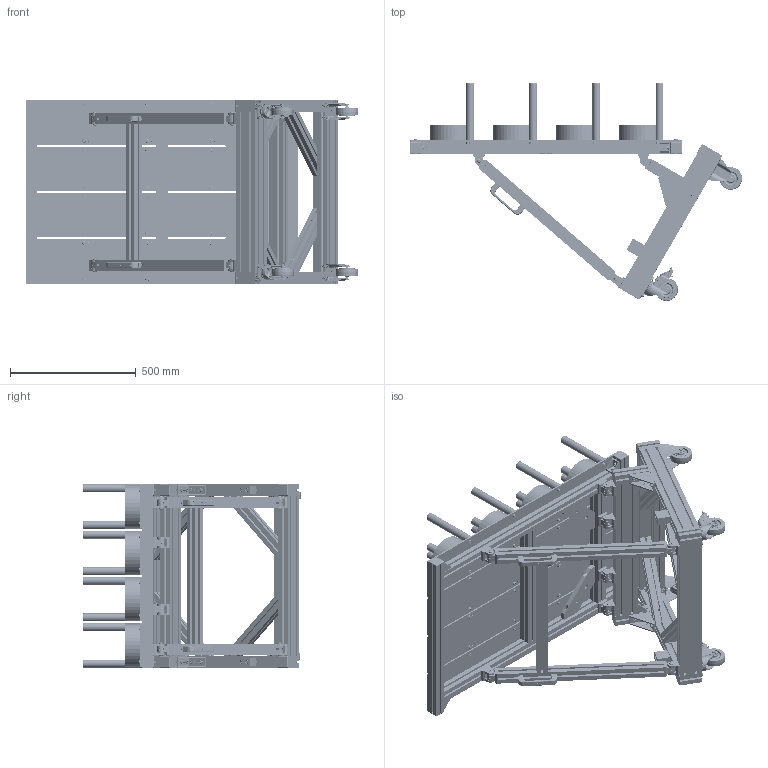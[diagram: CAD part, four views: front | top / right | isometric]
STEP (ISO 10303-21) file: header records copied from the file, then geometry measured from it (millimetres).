
FILE_DESCRIPTION(/* description */ (''),/* implementation_level */ '2;1');
FILE_NAME(/* name */ 'MT091322-1_Cart.stp',/* time_stamp */ '2023-09-14T10:07:32-04:00',/* author */ ('amoles'),/* organization */ (''),/* preprocessor_version */ 'ST-DEVELOPER v19.2',/* originating_system */ 'Autodesk Inventor 2024',/* authorisation */ '');
FILE_SCHEMA (('AUTOMOTIVE_DESIGN { 1 0 10303 214 3 1 1 }'));
Products named in the file (82): MT091322-1_Cart; Support Frame_Top; 20.1033 45X45 F_31; 20.1033 45X45 F_39; Det 100_Assy; MT091322-1_100; 20.1088 HANDLE PROFILE 32_8.875; Default; 21.1204 ; 22.1023_1; 91292A189_TYPE 18-8 SS SOCKET HEAD CAP SCREW; 21.2020 ; 21.2020 _1; 21.2020 _2; 21.2020 _3; DIN 427 - M8 x 16; 21.1784 ; 21.1784 CORNER 180; 21.1210 ; 20.1033 45X45 F_4; 20.1032 45X90 F_30.037; 20.1033 45X45 F_Corner_Vert; 20.1032 45X90 F_20.46; Link_Assy; 21.2030; 21.2030_1; 20.0984 90X90X45_30.037; Link_Assy_1; 20.1033 45X45 F_Link; 21.2030_2; 21.2030_3; 21.2030 LING FLANGED BUSHING; 21.2030 LINK AL BLOCK; 21.2030 LINK ALUMINUM BLOCK INNER; ISO 7380 - M8 x 16; 21.2016; 21.1212 ; 21.1351 ; 21.2530_1 HANDLE 135 GRAY; 21.2530_1 HANDLE 135 GRAY_1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
Assembly tree (298 placements, depth 5):
  MT091322-1_Cart
    Support Frame_Top
      20.1033 45X45 F_31  x2
      20.1033 45X45 F_39  x2
      Det 100_Assy  x4
        MT091322-1_100
        20.1088 HANDLE PROFILE 32_8.875
        Default
        21.1204 
        22.1023_1
        91292A189_TYPE 18-8 SS SOCKET HEAD CAP SCREW
        21.1127 
        21.1280 
      20.1033 45X45 F_23.46  x2
      21.2020 
        21.2030 LINK ALUMINUM BLOCK INNER
        21.2030 LING FLANGED BUSHING  x2
        21.2030 LINK AL BLOCK
        21.2016  x2
        21.1212 
        21.1202
        DIN 427 - M8 x 16  x2
        21.1351   x2
      21.2020 _1
        21.2030 LINK ALUMINUM BLOCK INNER
        21.2030 LING FLANGED BUSHING  x2
        21.2030 LINK AL BLOCK
        21.2016  x2
        21.1212 
        21.1202
        DIN 427 - M8 x 16  x2
        21.1351   x2
      21.1349_7 ANGLE 45 GD-Z  x4
        21.1349 ANGLE 45 GD-Z
        21.1280 
        21.1127 
        21.1351/2
      21.2020 _2
        21.2030 LINK ALUMINUM BLOCK INNER
        21.2030 LING FLANGED BUSHING  x2
        21.2030 LINK AL BLOCK
        21.2016  x2
        21.1212 
        21.1202
        DIN 427 - M8 x 16  x2
        21.1351   x2
      21.2020 _3
        21.2030 LINK ALUMINUM BLOCK INNER
        21.2030 LING FLANGED BUSHING  x2
        21.2030 LINK AL BLOCK
        21.2016  x2
        21.1212 
        21.1202
        DIN 427 - M8 x 16  x2
        21.1351   x2
      21.1784   x2
        21.1784 CORNER 180
        21.1210 
        21.1351 
      22.1004_1 END CAP 45X45 GRAY  x4
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Bounding box: 1320.33 x 866.86 x 735.11 mm (x, y, z)
Volume: 43376403.1 mm3; surface area: 13968649 mm2
Topology: 540 solids, 544 shells, 25322 faces, 64410 edges, 39408 vertices
Faces by surface type: plane 11878, cylinder 8828, sphere 1652, bspline 1098, cone 1096, torus 770
Full cylindrical faces by diameter (mm): 2.286 x4, 3.454 x4, 3.961 x192, 4.064 x4, 4.134 x32, 4.674 x4, 5 x212, 5.004 x8, 5.258 x2, 5.5 x10, 6.376 x84, 7 x16, 7.5 x12, 8 x304, 8.4 x68, 8.407 x52, 8.5 x40, 8.6 x4, 8.871 x4, 9 x36, 9.5 x32, 9.525 x4, 9.906 x4, 10 x26, 12 x18, 12.192 x4, 13 x152, 14 x8, 15 x4, 15.011 x4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
Entity records: 161858 total; most frequent: CARTESIAN_POINT 53546, ORIENTED_EDGE 22198, DIRECTION 21370, EDGE_CURVE 11099, VERTEX_POINT 7187, AXIS2_PLACEMENT_3D 7143, LINE 7084, VECTOR 7084
